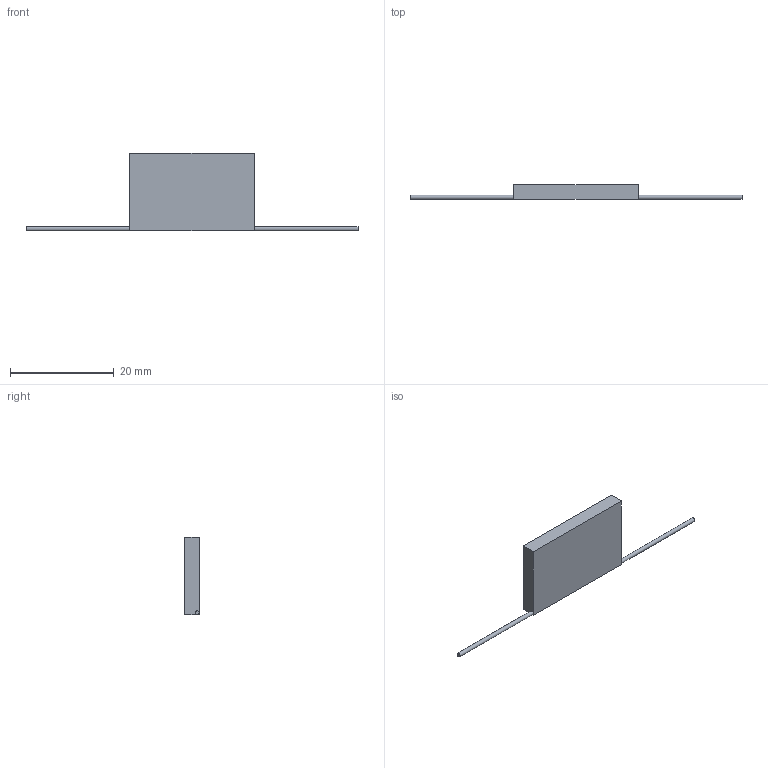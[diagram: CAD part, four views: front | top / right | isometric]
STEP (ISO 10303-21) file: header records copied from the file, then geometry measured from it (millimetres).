
FILE_DESCRIPTION(('STEP AP203'), '1');
FILE_NAME('R1-35-2-2', '', ('UNSPECIFIED'), ('UNSPECIFIED'), 'ASCON STEP Converter 1.6', 'ASCON Math Kernel', '');
FILE_SCHEMA(('CONFIG_CONTROL_DESIGN'));
Length unit declared in the file: millimetre
Bounding box: 64 x 2.8 x 15 mm (x, y, z)
Volume: 1028.1 mm3; surface area: 1038.9 mm2
Topology: 1 solids, 1 shells, 12 faces, 24 edges, 14 vertices
Faces by surface type: plane 10, cylinder 2
Full cylindrical faces by diameter (mm): 0.8 x2
Entity records: 436 total; most frequent: DIRECTION 54, CARTESIAN_POINT 49, ORIENTED_EDGE 44, EDGE_CURVE 22, AXIS2_PLACEMENT_3D 19, LINE 16, VECTOR 16, EDGE_LOOP 14
